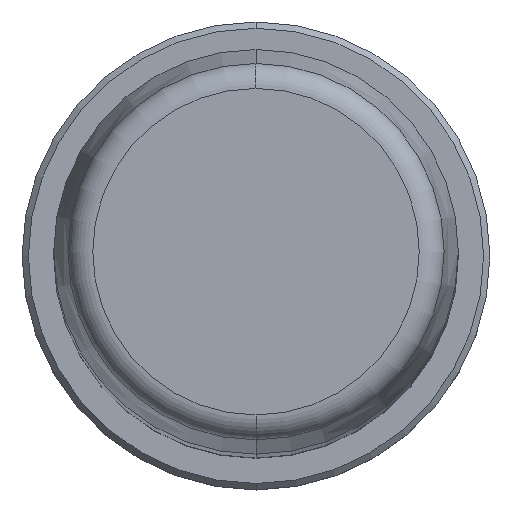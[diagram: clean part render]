
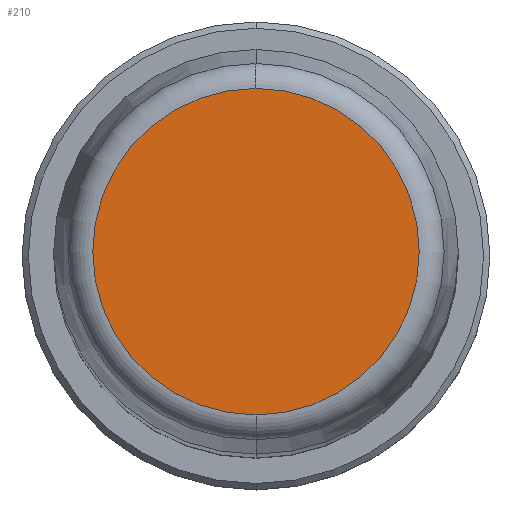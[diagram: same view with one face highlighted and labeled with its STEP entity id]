
A CAD part, top view. The second image highlights one B-rep face of the part: STEP entity #210.
In plain terms, the highlighted planar face has unit normal (0, 0, 1).
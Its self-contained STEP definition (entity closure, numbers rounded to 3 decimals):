
#1=CARTESIAN_POINT('',(0.,0.,200.));
#2=DIRECTION('',(0.,0.,-1.));
#3=DIRECTION('',(0.,-1.,0.));
#4=AXIS2_PLACEMENT_3D('',#1,#2,#3);
#6=CARTESIAN_POINT('',(0.,0.,200.));
#7=DIRECTION('',(0.,0.,-1.));
#8=DIRECTION('',(0.,1.,0.));
#9=AXIS2_PLACEMENT_3D('',#6,#7,#8);
#183=CARTESIAN_POINT('',(0.,-12.911,200.));
#184=CARTESIAN_POINT('',(0.,12.911,200.));
#185=VERTEX_POINT('',#183);
#186=VERTEX_POINT('',#184);
#199=CARTESIAN_POINT('',(0.,0.,200.));
#200=DIRECTION('',(0.,0.,1.));
#201=DIRECTION('',(0.,-1.,0.));
#202=AXIS2_PLACEMENT_3D('',#199,#200,#201);
#203=PLANE('',#202);
#205=ORIENTED_EDGE('',*,*,#204,.T.);
#207=ORIENTED_EDGE('',*,*,#206,.T.);
#208=EDGE_LOOP('',(#205,#207));
#209=FACE_OUTER_BOUND('',#208,.F.);
#210=ADVANCED_FACE('',(#209),#203,.T.);
#5=CIRCLE('',#4,12.911);
#10=CIRCLE('',#9,12.911);
#204=EDGE_CURVE('',#185,#186,#5,.T.);
#206=EDGE_CURVE('',#186,#185,#10,.T.);
